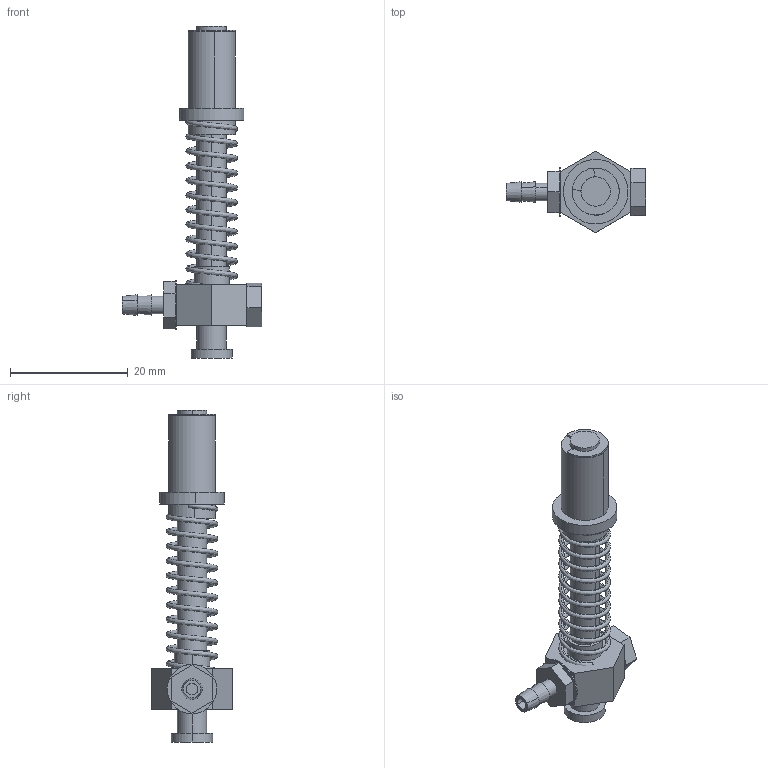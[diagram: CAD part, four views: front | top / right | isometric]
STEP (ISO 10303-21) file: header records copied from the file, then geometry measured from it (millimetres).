
FILE_DESCRIPTION (( 'STEP AP214' ), '1' );
FILE_NAME ('VFS-2008.STEP', '2019-11-16T00:54:47', ( '微软用户' ), ( '微软中国' ), 'SwSTEP 2.0', 'SolidWorks 2016', '' );
FILE_SCHEMA (( 'AUTOMOTIVE_DESIGN' ));
Length unit declared in the file: millimetre
Products named in the file (1): VFS-2008
Bounding box: 23.7 x 13.86 x 56.5 mm (x, y, z)
Volume: 2745.9 mm3; surface area: 3929.7 mm2
Topology: 8 solids, 8 shells, 131 faces, 305 edges, 202 vertices
Faces by surface type: cylinder 66, plane 54, bspline 7, cone 4
Entity records: 9974 total; most frequent: CARTESIAN_POINT 5528, ORIENTED_EDGE 610, DIRECTION 579, EDGE_CURVE 305, AXIS2_PLACEMENT_3D 217, VERTEX_POINT 202, EDGE_LOOP 153, LINE 145
